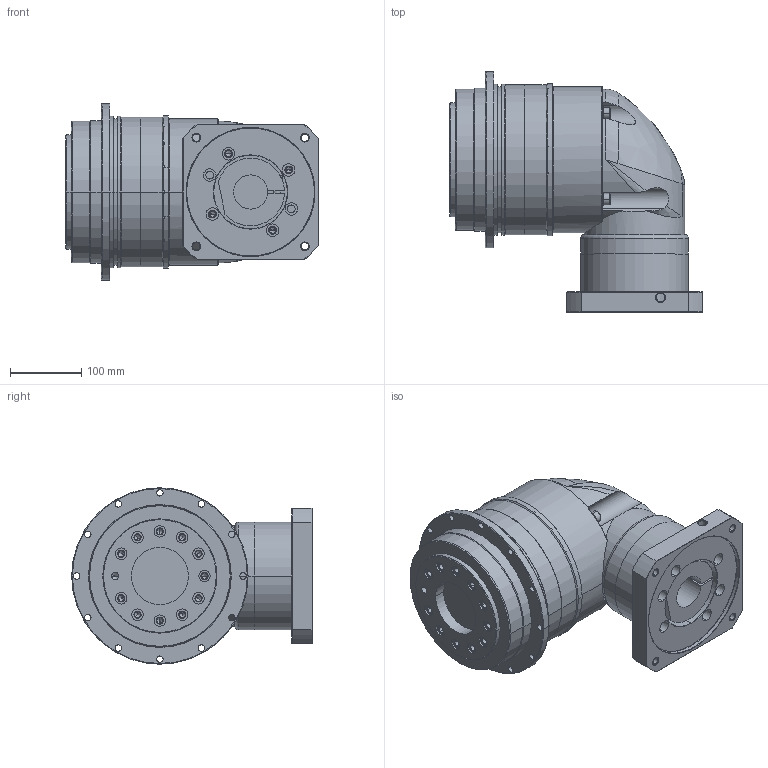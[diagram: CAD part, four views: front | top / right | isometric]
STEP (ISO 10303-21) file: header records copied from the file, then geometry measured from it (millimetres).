
FILE_DESCRIPTION((''),'2;1');
FILE_NAME('ADR2001-P0403600601_ASM','2008-09-02T',('d00080'),(''),'PRO/ENGINEER BY PARAMETRIC TECHNOLOGY CORPORATION, 2006170','PRO/ENGINEER BY PARAMETRIC TECHNOLOGY CORPORATION, 2006170','');
FILE_SCHEMA(('CONFIG_CONTROL_DESIGN'));
Length unit declared in the file: millimetre
Products named in the file (11): AD200-1; P1306600001; 220110616; ADR-PLATE-6_ASM; P1002600001; 233100006; 220100916; HOUSING-SET-6_ASM; P1305600001; P0403600601; ADR2001-P0403600601_ASM
Assembly tree (33 placements, depth 3):
  ADR2001-P0403600601_ASM
    AD200-1
    ADR-PLATE-6_ASM
      P1306600001
      220110616  x18
    HOUSING-SET-6_ASM
      P1002600001
      233100006  x4
      220100916  x4
    P1305600001
    P0403600601
Bounding box: 354 x 337 x 247 mm (x, y, z)
Volume: 10474362.5 mm3; surface area: 765074 mm2
Topology: 31 solids, 81 shells, 1561 faces, 3562 edges, 2148 vertices
Faces by surface type: cylinder 670, plane 504, cone 296, torus 73, bspline 18
Entity records: 28035 total; most frequent: CARTESIAN_POINT 5878, DIRECTION 5139, ORIENTED_EDGE 4024, AXIS2_PLACEMENT_3D 2191, EDGE_CURVE 2112, VERTEX_POINT 1364, CIRCLE 1224, EDGE_LOOP 1142
